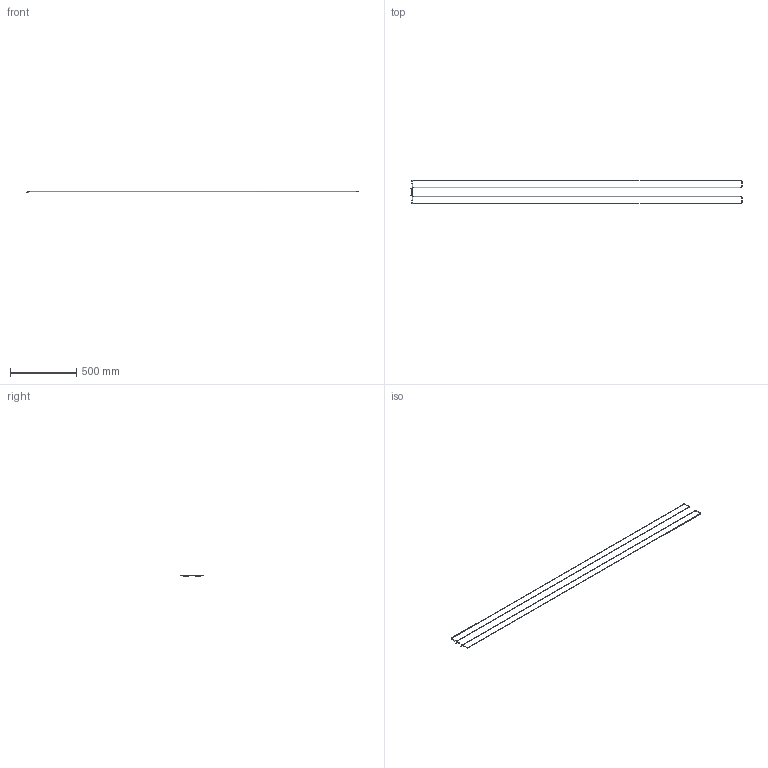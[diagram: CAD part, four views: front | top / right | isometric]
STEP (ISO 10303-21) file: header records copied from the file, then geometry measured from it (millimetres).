
FILE_DESCRIPTION(/* description */ (''),/* implementation_level */ '2;1');
FILE_NAME(/* name */ '2302_BTL_Piping_v5_pipesonly.stp',/* time_stamp */ '2023-02-20T10:43:59+01:00',/* author */ (''),/* organization */ (''),/* preprocessor_version */ 'ST-DEVELOPER v18.102',/* originating_system */ 'SIEMENS PLM Software NX 2000',/* authorisation */ '');
FILE_SCHEMA (('AUTOMOTIVE_DESIGN { 1 0 10303 214 3 1 1 1 }'));
Length unit declared in the file: millimetre
Products named in the file (1): bmas1294BC974593
Bounding box: 2499.05 x 180.5 x 11.5 mm (x, y, z)
Volume: 26081.1 mm3; surface area: 208669.4 mm2
Topology: 4 solids, 4 shells, 56 faces, 184 edges, 136 vertices
Faces by surface type: cylinder 28, torus 20, plane 8
Full cylindrical faces by diameter (mm): 3 x14, 3.5 x14
Entity records: 2249 total; most frequent: DIRECTION 454, CARTESIAN_POINT 377, ORIENTED_EDGE 368, AXIS2_PLACEMENT_3D 213, EDGE_CURVE 184, CIRCLE 156, VERTEX_POINT 136, EDGE_LOOP 64
